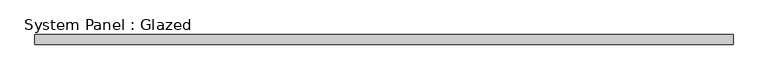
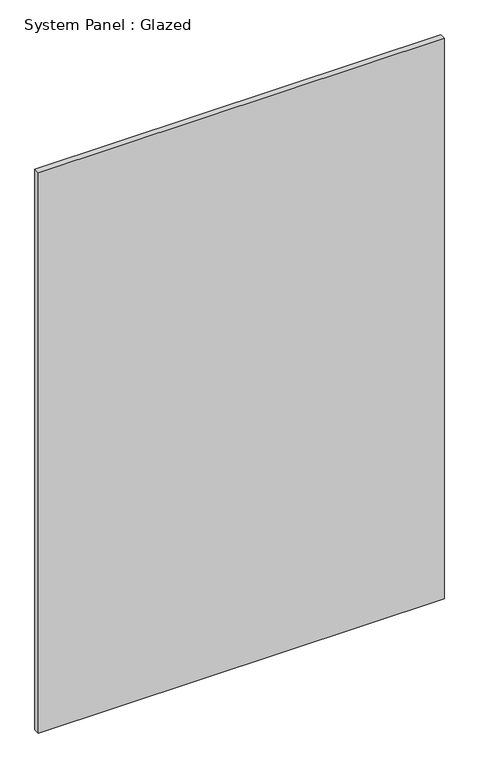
"""IFC4 building model written with IfcOpenShell, lengths in millimetres: plate geometry, System Panel : Glazed."""

import ifcopenshell
import ifcopenshell.guid

model = None  # the IFC model being written
_history = None  # IfcOwnerHistory: only IFC2X3 demands one
_inside = {}  # id of a spatial element -> (the spatial element, [elements in it])
_under = {}  # id of a project, library or spatial element -> (it, [spatial elements below it])
_declared = {}  # id of a project -> (the project, [libraries it declares])
_typed = {}  # id of a type object -> (the type object, [elements of that type])
_made_of = {}  # id of a material, layer set ... -> (it, [elements and type objects made of it])


def new_model(schema):
    """Start an empty IFC model of exactly this schema.

    Asked for "IFC4X3", IfcOpenShell would pick the latest addendum, in which some entities
    have other attributes; the version numbers below select the first issue.
    IFC2X3 requires an IfcOwnerHistory on every rooted entity: one is made here for all.
    """
    global model, _history
    if schema == "IFC4X3":
        model = ifcopenshell.file(schema_version=(4, 3, 0, 0))
    else:
        model = ifcopenshell.file(schema=schema)
    _inside.clear()
    _under.clear()
    _declared.clear()
    _typed.clear()
    _made_of.clear()
    _history = None
    if model.schema == "IFC2X3":
        org = make("IfcOrganization", Name="unknown")
        user = make(
            "IfcPersonAndOrganization",
            ThePerson=make("IfcPerson", FamilyName="unknown"),
            TheOrganization=org,
        )
        app = make(
            "IfcApplication",
            ApplicationDeveloper=org,
            Version="unknown",
            ApplicationFullName="unknown",
            ApplicationIdentifier="unknown",
        )
        _history = make(
            "IfcOwnerHistory",
            OwningUser=user,
            OwningApplication=app,
            ChangeAction="ADDED",
            CreationDate=0,
        )
    return model


def make(cls, **values):
    """One entity of the class cls with the attributes given. An attribute that is None is left unset."""
    return model.create_entity(
        cls, **{name: value for name, value in values.items() if value is not None}
    )


def rooted(cls, **values):
    """An entity with a GlobalId (a new one), such as an element, a storey or a relation."""
    return make(cls, GlobalId=ifcopenshell.guid.new(), OwnerHistory=_history, **values)


def si_unit(unit_type, name, prefix=None):
    """IfcSIUnit, for example si_unit("LENGTHUNIT", "METRE", prefix="MILLI")."""
    return make("IfcSIUnit", UnitType=unit_type, Prefix=prefix, Name=name)


def assignment(units):
    """IfcUnitAssignment: the units of a project."""
    return None if units is None else make("IfcUnitAssignment", Units=units)


def point(xyz):
    """IfcCartesianPoint."""
    return None if xyz is None else make("IfcCartesianPoint", Coordinates=xyz)


def direction(xyz):
    """IfcDirection."""
    return None if xyz is None else make("IfcDirection", DirectionRatios=xyz)


def frame(location, z_axis=None, x_axis=None):
    """IfcAxis2Placement3D, a coordinate frame: its origin and axes. An axis left out is left unset."""
    return make(
        "IfcAxis2Placement3D",
        Location=point(location),
        Axis=direction(z_axis),
        RefDirection=direction(x_axis),
    )


def origin():
    """The frame at (0, 0, 0) with its axes left unset."""
    return frame((0.0, 0.0, 0.0))


def origin_with_axes():
    """The frame at (0, 0, 0) with the z axis (0, 0, 1) and the x axis (1, 0, 0) written out."""
    return frame((0.0, 0.0, 0.0), z_axis=(0.0, 0.0, 1.0), x_axis=(1.0, 0.0, 0.0))


def place(relative_to, where):
    """IfcLocalPlacement: puts the frame where relative to a parent placement (None: the world)."""
    return make(
        "IfcLocalPlacement", PlacementRelTo=relative_to, RelativePlacement=where
    )


def context(
    kind, dimensions, precision=None, world=None, true_north=None, identifier=None
):
    """IfcGeometricRepresentationContext, for example the 3D "Model" context."""
    return make(
        "IfcGeometricRepresentationContext",
        ContextIdentifier=identifier,
        ContextType=kind,
        CoordinateSpaceDimension=dimensions,
        Precision=precision,
        WorldCoordinateSystem=world,
        TrueNorth=true_north,
    )


def project(units=None, contexts=None):
    """IfcProject with its units and contexts."""
    return rooted(
        "IfcProject",
        Name="project",
        RepresentationContexts=contexts,
        UnitsInContext=assignment(units),
    )


def spatial(cls, under=None, at=None, **own):
    """A site, building, storey or space (cls), placed at a placement, below another one or the project."""
    s = rooted(cls, ObjectPlacement=at, **own)
    if under is not None:
        _under.setdefault(under.id(), (under, []))[1].append(s)
    return s


def polyline(points):
    """IfcPolyline through the points."""
    return make("IfcPolyline", Points=[point(p) for p in points])


def outline(outer, holes=None, kind="AREA"):
    """IfcArbitraryClosedProfileDef: a profile drawn as a closed curve; with holes, ...WithVoids."""
    if holes is None:
        return make("IfcArbitraryClosedProfileDef", ProfileType=kind, OuterCurve=outer)
    return make(
        "IfcArbitraryProfileDefWithVoids",
        ProfileType=kind,
        OuterCurve=outer,
        InnerCurves=holes,
    )


def extrude(swept, where, along, depth):
    """IfcExtrudedAreaSolid: the profile swept, set in the frame where, extruded along a direction by depth."""
    return make(
        "IfcExtrudedAreaSolid",
        SweptArea=swept,
        Position=where,
        ExtrudedDirection=direction(along),
        Depth=depth,
    )


def shape(context_of_items, identifier, shape_type, items):
    """IfcShapeRepresentation: the items that make up one representation, for example the "Body"."""
    return make(
        "IfcShapeRepresentation",
        ContextOfItems=context_of_items,
        RepresentationIdentifier=identifier,
        RepresentationType=shape_type,
        Items=items,
    )


def source(mapping_origin, context_of_items, identifier, shape_type, items):
    """IfcRepresentationMap: a shape defined once, which mapped items show again and again."""
    return make(
        "IfcRepresentationMap",
        MappingOrigin=mapping_origin,
        MappedRepresentation=shape(context_of_items, identifier, shape_type, items),
    )


def transform(
    local_origin,
    x_axis=None,
    y_axis=None,
    z_axis=None,
    scale=None,
    scale2=None,
    scale3=None,
    uniform=True,
):
    """IfcCartesianTransformationOperator3D, or its non-uniform kind. x_axis, y_axis, z_axis: its Axis1, 2, 3."""
    if uniform:
        return make(
            "IfcCartesianTransformationOperator3D",
            Axis1=direction(x_axis),
            Axis2=direction(y_axis),
            LocalOrigin=point(local_origin),
            Scale=scale,
            Axis3=direction(z_axis),
        )
    return make(
        "IfcCartesianTransformationOperator3DnonUniform",
        Axis1=direction(x_axis),
        Axis2=direction(y_axis),
        LocalOrigin=point(local_origin),
        Scale=scale,
        Axis3=direction(z_axis),
        Scale2=scale2,
        Scale3=scale3,
    )


def mapped(mapping_source, mapping_target):
    """IfcMappedItem: shows the shape of a source again, moved by a transform."""
    return make(
        "IfcMappedItem", MappingSource=mapping_source, MappingTarget=mapping_target
    )


def made_of(thing, what):
    """Note that an element or type object is made of a material, layer set ...; save() writes the relation."""
    if what is not None:
        _made_of.setdefault(what.id(), (what, []))[1].append(thing)
    return thing


def element(
    cls,
    number,
    at=None,
    inside=None,
    cuts=None,
    type_object=None,
    material=None,
    context=None,
    identifier="Body",
    shape_type=None,
    held_by="IfcProductDefinitionShape",
    body=None,
    shapes=None,
    **own,
):
    """One element of the class cls, such as IfcWall. Its Tag is "e" and its number.

    at: its placement. inside: the storey or other place that contains it. cuts: it is an
    opening in that element (IfcRelVoidsElement). A single representation is given by context,
    identifier, shape_type and body (its items); several are given by shapes. held_by: the class
    of the entity that holds the representations. save() writes the other relations.
    """
    e = rooted(cls, Tag="e%d" % number, ObjectPlacement=at, **own)
    if body is not None:
        shapes = [shape(context, identifier, shape_type, body)]
    if shapes is not None:
        e.Representation = make(held_by, Representations=shapes)
    if inside is not None:
        _inside.setdefault(inside.id(), (inside, []))[1].append(e)
    if cuts is not None:
        rooted(
            "IfcRelVoidsElement", RelatingBuildingElement=cuts, RelatedOpeningElement=e
        )
    if type_object is not None:
        _typed.setdefault(type_object.id(), (type_object, []))[1].append(e)
    return made_of(e, material)


def aggregate(whole, parts):
    """IfcRelAggregates: a whole, such as a stair, and the parts it consists of."""
    return rooted("IfcRelAggregates", RelatingObject=whole, RelatedObjects=parts)


def save(model, path):
    """Write the relations noted so far, then the file.

    IfcRelAggregates (storeys below a building ...), IfcRelContainedInSpatialStructure (elements
    in a storey), IfcRelDefinesByType, IfcRelAssociatesMaterial and IfcRelDeclares: one each for
    every whole, place, type object, material and project.
    """
    for whole, parts in _under.values():
        aggregate(whole, parts)
    for where, things in _inside.values():
        rooted(
            "IfcRelContainedInSpatialStructure",
            RelatedElements=things,
            RelatingStructure=where,
        )
    for kind, things in _typed.values():
        rooted("IfcRelDefinesByType", RelatedObjects=things, RelatingType=kind)
    for what, things in _made_of.values():
        rooted("IfcRelAssociatesMaterial", RelatedObjects=things, RelatingMaterial=what)
    for by, libraries in _declared.values():
        rooted("IfcRelDeclares", RelatingContext=by, RelatedDefinitions=libraries)
    model.write(path)


def system_panel_glazed_ae73c78b(model_context):
    return source(origin(), model_context, "Body", "SweptSolid", [
        extrude(outline(polyline([(882.65, 19.05), (-882.65, 19.05), (-882.65, 44.45), (882.65, 44.45), (882.65, 19.05)])), origin_with_axes(), (0.0, 0.0, 1.0), 2578.1),
    ])


if __name__ == "__main__":
    model = new_model("IFC4")
    model_context = context("Model", 3, world=origin())
    ifc_project = project(units=[si_unit("LENGTHUNIT", "METRE", prefix="MILLI")], contexts=[model_context])
    site = spatial("IfcSite", under=ifc_project)
    building = spatial("IfcBuilding", under=site)
    placement = place(None, origin())
    system_panel_glazed_shape = system_panel_glazed_ae73c78b(model_context)
    element("IfcPlate", 1, ObjectType="System Panel : Glazed", at=placement, inside=building, context=model_context, shape_type="MappedRepresentation", body=[
        mapped(system_panel_glazed_shape, transform((0.0, 0.0, 0.0), x_axis=(1.0, 0.0, 0.0), y_axis=(0.0, 1.0, 0.0), z_axis=(0.0, 0.0, 1.0))),
    ])
    save(model, "model.ifc")
